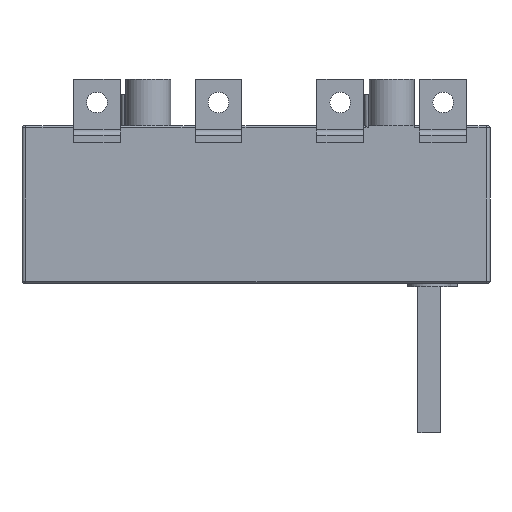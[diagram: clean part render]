
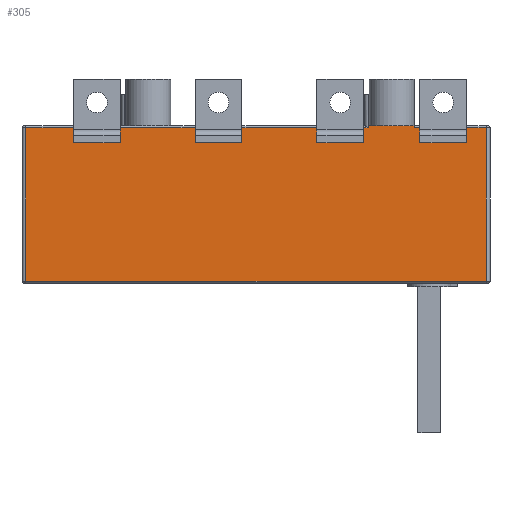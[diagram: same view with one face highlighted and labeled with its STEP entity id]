
A CAD part, front view. The second image highlights one B-rep face of the part: STEP entity #305.
In plain terms, the highlighted planar face has unit normal (0, -1, 0).
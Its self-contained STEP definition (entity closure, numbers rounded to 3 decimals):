
#305=ADVANCED_FACE('',(#681),#545,.T.);
#545=PLANE('',#4366);
#681=FACE_OUTER_BOUND('',#849,.T.);
#849=EDGE_LOOP('',(#1993,#1994,#1995,#1996,#1997,#1998,#1999,#2000,#2001,
#2002,#2003,#2004,#2005,#2006,#2007,#2008,#2009,#2010,#2011,#2012,#2013,
#2014,#2015,#2016,#2017,#2018,#2019,#2020,#2021,#2022,#2023,#2024,#2025,
#2026));
#1154=LINE('',#6079,#1534);
#1157=LINE('',#6088,#1537);
#1209=LINE('',#6226,#1589);
#1210=LINE('',#6229,#1590);
#1211=LINE('',#6231,#1591);
#1212=LINE('',#6233,#1592);
#1213=LINE('',#6235,#1593);
#1214=LINE('',#6237,#1594);
#1215=LINE('',#6239,#1595);
#1216=LINE('',#6241,#1596);
#1217=LINE('',#6243,#1597);
#1218=LINE('',#6245,#1598);
#1219=LINE('',#6246,#1599);
#1220=LINE('',#6248,#1600);
#1221=LINE('',#6250,#1601);
#1222=LINE('',#6251,#1602);
#1223=LINE('',#6253,#1603);
#1224=LINE('',#6255,#1604);
#1225=LINE('',#6257,#1605);
#1226=LINE('',#6259,#1606);
#1227=LINE('',#6261,#1607);
#1228=LINE('',#6263,#1608);
#1229=LINE('',#6265,#1609);
#1230=LINE('',#6267,#1610);
#1231=LINE('',#6269,#1611);
#1232=LINE('',#6271,#1612);
#1233=LINE('',#6273,#1613);
#1234=LINE('',#6275,#1614);
#1235=LINE('',#6277,#1615);
#1236=LINE('',#6279,#1616);
#1237=LINE('',#6281,#1617);
#1238=LINE('',#6283,#1618);
#1239=LINE('',#6285,#1619);
#1240=LINE('',#6287,#1620);
#1534=VECTOR('',#4797,1.);
#1537=VECTOR('',#4804,1.);
#1589=VECTOR('',#4912,1.);
#1590=VECTOR('',#4913,1.);
#1591=VECTOR('',#4914,1.);
#1592=VECTOR('',#4915,1.);
#1593=VECTOR('',#4916,1.);
#1594=VECTOR('',#4917,1.);
#1595=VECTOR('',#4918,1.);
#1596=VECTOR('',#4919,1.);
#1597=VECTOR('',#4920,1.);
#1598=VECTOR('',#4921,1.);
#1599=VECTOR('',#4922,1.);
#1600=VECTOR('',#4923,1.);
#1601=VECTOR('',#4924,1.);
#1602=VECTOR('',#4925,1.);
#1603=VECTOR('',#4926,1.);
#1604=VECTOR('',#4927,1.);
#1605=VECTOR('',#4928,1.);
#1606=VECTOR('',#4929,1.);
#1607=VECTOR('',#4930,1.);
#1608=VECTOR('',#4931,1.);
#1609=VECTOR('',#4932,1.);
#1610=VECTOR('',#4933,1.);
#1611=VECTOR('',#4934,1.);
#1612=VECTOR('',#4935,1.);
#1613=VECTOR('',#4936,1.);
#1614=VECTOR('',#4937,1.);
#1615=VECTOR('',#4938,1.);
#1616=VECTOR('',#4939,1.);
#1617=VECTOR('',#4940,1.);
#1618=VECTOR('',#4941,1.);
#1619=VECTOR('',#4942,1.);
#1620=VECTOR('',#4943,1.);
#1993=ORIENTED_EDGE('',*,*,#3581,.F.);
#1994=ORIENTED_EDGE('',*,*,#3582,.F.);
#1995=ORIENTED_EDGE('',*,*,#3583,.T.);
#1996=ORIENTED_EDGE('',*,*,#3584,.T.);
#1997=ORIENTED_EDGE('',*,*,#3585,.T.);
#1998=ORIENTED_EDGE('',*,*,#3586,.F.);
#1999=ORIENTED_EDGE('',*,*,#3587,.F.);
#2000=ORIENTED_EDGE('',*,*,#3588,.T.);
#2001=ORIENTED_EDGE('',*,*,#3589,.T.);
#2002=ORIENTED_EDGE('',*,*,#3590,.T.);
#2003=ORIENTED_EDGE('',*,*,#3516,.F.);
#2004=ORIENTED_EDGE('',*,*,#3591,.T.);
#2005=ORIENTED_EDGE('',*,*,#3592,.T.);
#2006=ORIENTED_EDGE('',*,*,#3593,.T.);
#2007=ORIENTED_EDGE('',*,*,#3512,.T.);
#2008=ORIENTED_EDGE('',*,*,#3594,.T.);
#2009=ORIENTED_EDGE('',*,*,#3595,.F.);
#2010=ORIENTED_EDGE('',*,*,#3596,.F.);
#2011=ORIENTED_EDGE('',*,*,#3597,.F.);
#2012=ORIENTED_EDGE('',*,*,#3598,.F.);
#2013=ORIENTED_EDGE('',*,*,#3599,.T.);
#2014=ORIENTED_EDGE('',*,*,#3600,.T.);
#2015=ORIENTED_EDGE('',*,*,#3601,.F.);
#2016=ORIENTED_EDGE('',*,*,#3602,.F.);
#2017=ORIENTED_EDGE('',*,*,#3603,.F.);
#2018=ORIENTED_EDGE('',*,*,#3604,.F.);
#2019=ORIENTED_EDGE('',*,*,#3605,.T.);
#2020=ORIENTED_EDGE('',*,*,#3606,.T.);
#2021=ORIENTED_EDGE('',*,*,#3607,.F.);
#2022=ORIENTED_EDGE('',*,*,#3608,.T.);
#2023=ORIENTED_EDGE('',*,*,#3609,.T.);
#2024=ORIENTED_EDGE('',*,*,#3610,.T.);
#2025=ORIENTED_EDGE('',*,*,#3611,.F.);
#2026=ORIENTED_EDGE('',*,*,#3612,.F.);
#3106=VERTEX_POINT('',#6070);
#3110=VERTEX_POINT('',#6078);
#3114=VERTEX_POINT('',#6087);
#3115=VERTEX_POINT('',#6089);
#3173=VERTEX_POINT('',#6227);
#3174=VERTEX_POINT('',#6228);
#3175=VERTEX_POINT('',#6230);
#3176=VERTEX_POINT('',#6232);
#3177=VERTEX_POINT('',#6234);
#3178=VERTEX_POINT('',#6236);
#3179=VERTEX_POINT('',#6238);
#3180=VERTEX_POINT('',#6240);
#3181=VERTEX_POINT('',#6242);
#3182=VERTEX_POINT('',#6244);
#3183=VERTEX_POINT('',#6247);
#3184=VERTEX_POINT('',#6249);
#3185=VERTEX_POINT('',#6252);
#3186=VERTEX_POINT('',#6254);
#3187=VERTEX_POINT('',#6256);
#3188=VERTEX_POINT('',#6258);
#3189=VERTEX_POINT('',#6260);
#3190=VERTEX_POINT('',#6262);
#3191=VERTEX_POINT('',#6264);
#3192=VERTEX_POINT('',#6266);
#3193=VERTEX_POINT('',#6268);
#3194=VERTEX_POINT('',#6270);
#3195=VERTEX_POINT('',#6272);
#3196=VERTEX_POINT('',#6274);
#3197=VERTEX_POINT('',#6276);
#3198=VERTEX_POINT('',#6278);
#3199=VERTEX_POINT('',#6280);
#3200=VERTEX_POINT('',#6282);
#3201=VERTEX_POINT('',#6284);
#3202=VERTEX_POINT('',#6286);
#3512=EDGE_CURVE('',#3106,#3110,#1154,.T.);
#3516=EDGE_CURVE('',#3114,#3115,#1157,.T.);
#3581=EDGE_CURVE('',#3173,#3174,#1209,.T.);
#3582=EDGE_CURVE('',#3175,#3173,#1210,.T.);
#3583=EDGE_CURVE('',#3175,#3176,#1211,.T.);
#3584=EDGE_CURVE('',#3176,#3177,#1212,.T.);
#3585=EDGE_CURVE('',#3177,#3178,#1213,.T.);
#3586=EDGE_CURVE('',#3179,#3178,#1214,.T.);
#3587=EDGE_CURVE('',#3180,#3179,#1215,.T.);
#3588=EDGE_CURVE('',#3180,#3181,#1216,.T.);
#3589=EDGE_CURVE('',#3181,#3182,#1217,.T.);
#3590=EDGE_CURVE('',#3182,#3115,#1218,.T.);
#3591=EDGE_CURVE('',#3114,#3183,#1219,.T.);
#3592=EDGE_CURVE('',#3183,#3184,#1220,.T.);
#3593=EDGE_CURVE('',#3184,#3106,#1221,.T.);
#3594=EDGE_CURVE('',#3110,#3185,#1222,.T.);
#3595=EDGE_CURVE('',#3186,#3185,#1223,.T.);
#3596=EDGE_CURVE('',#3187,#3186,#1224,.T.);
#3597=EDGE_CURVE('',#3188,#3187,#1225,.T.);
#3598=EDGE_CURVE('',#3189,#3188,#1226,.T.);
#3599=EDGE_CURVE('',#3189,#3190,#1227,.T.);
#3600=EDGE_CURVE('',#3190,#3191,#1228,.T.);
#3601=EDGE_CURVE('',#3192,#3191,#1229,.T.);
#3602=EDGE_CURVE('',#3193,#3192,#1230,.T.);
#3603=EDGE_CURVE('',#3194,#3193,#1231,.T.);
#3604=EDGE_CURVE('',#3195,#3194,#1232,.T.);
#3605=EDGE_CURVE('',#3195,#3196,#1233,.T.);
#3606=EDGE_CURVE('',#3196,#3197,#1234,.T.);
#3607=EDGE_CURVE('',#3198,#3197,#1235,.T.);
#3608=EDGE_CURVE('',#3198,#3199,#1236,.T.);
#3609=EDGE_CURVE('',#3199,#3200,#1237,.T.);
#3610=EDGE_CURVE('',#3200,#3201,#1238,.T.);
#3611=EDGE_CURVE('',#3202,#3201,#1239,.T.);
#3612=EDGE_CURVE('',#3174,#3202,#1240,.T.);
#4366=AXIS2_PLACEMENT_3D('',#6288,#4944,#4945);
#4797=DIRECTION('',(0.,0.,1.));
#4804=DIRECTION('',(0.,0.,1.));
#4912=DIRECTION('',(1.,0.,0.));
#4913=DIRECTION('',(0.,0.,-1.));
#4914=DIRECTION('',(0.,0.,1.));
#4915=DIRECTION('',(-1.,0.,0.));
#4916=DIRECTION('',(0.,0.,1.));
#4917=DIRECTION('',(1.,0.,0.));
#4918=DIRECTION('',(0.,0.,-1.));
#4919=DIRECTION('',(-1.,0.,0.));
#4920=DIRECTION('',(0.,0.,-1.));
#4921=DIRECTION('',(-1.,0.,0.));
#4922=DIRECTION('',(0.,0.,-1.));
#4923=DIRECTION('',(-1.,0.,0.));
#4924=DIRECTION('',(0.,0.,1.));
#4925=DIRECTION('',(-1.,0.,0.));
#4926=DIRECTION('',(0.,0.,1.));
#4927=DIRECTION('',(0.,0.,1.));
#4928=DIRECTION('',(1.,0.,0.));
#4929=DIRECTION('',(0.,0.,-1.));
#4930=DIRECTION('',(0.,0.,1.));
#4931=DIRECTION('',(-1.,0.,0.));
#4932=DIRECTION('',(0.,0.,1.));
#4933=DIRECTION('',(0.,0.,1.));
#4934=DIRECTION('',(1.,0.,0.));
#4935=DIRECTION('',(0.,0.,-1.));
#4936=DIRECTION('',(0.,0.,1.));
#4937=DIRECTION('',(-1.,0.,0.));
#4938=DIRECTION('',(0.,0.,1.));
#4939=DIRECTION('',(1.,0.,0.));
#4940=DIRECTION('',(0.,0.,1.));
#4941=DIRECTION('',(-1.,0.,0.));
#4942=DIRECTION('',(0.,0.,1.));
#4943=DIRECTION('',(0.,0.,1.));
#4944=DIRECTION('',(0.,-1.,0.));
#4945=DIRECTION('',(1.,0.,0.));
#6070=CARTESIAN_POINT('',(-40.,-52.5,-5.));
#6078=CARTESIAN_POINT('',(-40.,-52.5,-1.));
#6079=CARTESIAN_POINT('',(-40.,-52.5,-9.));
#6087=CARTESIAN_POINT('',(-15.,-52.5,-5.));
#6088=CARTESIAN_POINT('',(-15.,-52.5,-9.));
#6089=CARTESIAN_POINT('',(-15.,-52.5,-1.));
#6226=CARTESIAN_POINT('',(15.,-52.5,-9.));
#6227=CARTESIAN_POINT('',(15.,-52.5,-9.));
#6228=CARTESIAN_POINT('',(40.,-52.5,-9.));
#6229=CARTESIAN_POINT('',(15.,-52.5,-9.));
#6230=CARTESIAN_POINT('',(15.,-52.5,-5.));
#6231=CARTESIAN_POINT('',(15.,-52.5,-9.));
#6232=CARTESIAN_POINT('',(15.,-52.5,-1.));
#6233=CARTESIAN_POINT('',(12.,-52.5,-1.));
#6234=CARTESIAN_POINT('',(12.,-52.5,-1.));
#6235=CARTESIAN_POINT('',(12.,-52.5,4.));
#6236=CARTESIAN_POINT('',(12.,-52.5,0.));
#6237=CARTESIAN_POINT('',(50.5,-52.5,0.));
#6238=CARTESIAN_POINT('',(-12.,-52.5,0.));
#6239=CARTESIAN_POINT('',(-12.,-52.5,25.));
#6240=CARTESIAN_POINT('',(-12.,-52.5,17.));
#6241=CARTESIAN_POINT('',(7.5,-52.5,17.));
#6242=CARTESIAN_POINT('',(-12.5,-52.5,17.));
#6243=CARTESIAN_POINT('',(-12.5,-52.5,4.));
#6244=CARTESIAN_POINT('',(-12.5,-52.5,-1.));
#6245=CARTESIAN_POINT('',(-195.5,-52.5,-1.));
#6246=CARTESIAN_POINT('',(-15.,-52.5,-9.));
#6247=CARTESIAN_POINT('',(-15.,-52.5,-9.));
#6248=CARTESIAN_POINT('',(-40.,-52.5,-9.));
#6249=CARTESIAN_POINT('',(-40.,-52.5,-9.));
#6250=CARTESIAN_POINT('',(-40.,-52.5,-9.));
#6251=CARTESIAN_POINT('',(-195.5,-52.5,-1.));
#6252=CARTESIAN_POINT('',(-80.,-52.5,-1.));
#6253=CARTESIAN_POINT('',(-80.,-52.5,-9.));
#6254=CARTESIAN_POINT('',(-80.,-52.5,-5.));
#6255=CARTESIAN_POINT('',(-80.,-52.5,-9.));
#6256=CARTESIAN_POINT('',(-80.,-52.5,-9.));
#6257=CARTESIAN_POINT('',(-105.,-52.5,-9.));
#6258=CARTESIAN_POINT('',(-105.,-52.5,-9.));
#6259=CARTESIAN_POINT('',(-105.,-52.5,-9.));
#6260=CARTESIAN_POINT('',(-105.,-52.5,-5.));
#6261=CARTESIAN_POINT('',(-105.,-52.5,-9.));
#6262=CARTESIAN_POINT('',(-105.,-52.5,-1.));
#6263=CARTESIAN_POINT('',(-195.5,-52.5,-1.));
#6264=CARTESIAN_POINT('',(-145.,-52.5,-1.));
#6265=CARTESIAN_POINT('',(-145.,-52.5,-9.));
#6266=CARTESIAN_POINT('',(-145.,-52.5,-5.));
#6267=CARTESIAN_POINT('',(-145.,-52.5,-9.));
#6268=CARTESIAN_POINT('',(-145.,-52.5,-9.));
#6269=CARTESIAN_POINT('',(-170.,-52.5,-9.));
#6270=CARTESIAN_POINT('',(-170.,-52.5,-9.));
#6271=CARTESIAN_POINT('',(-170.,-52.5,-9.));
#6272=CARTESIAN_POINT('',(-170.,-52.5,-5.));
#6273=CARTESIAN_POINT('',(-170.,-52.5,-9.));
#6274=CARTESIAN_POINT('',(-170.,-52.5,-1.));
#6275=CARTESIAN_POINT('',(-195.5,-52.5,-1.));
#6276=CARTESIAN_POINT('',(-195.5,-52.5,-1.));
#6277=CARTESIAN_POINT('',(-195.5,-52.5,-84.));
#6278=CARTESIAN_POINT('',(-195.5,-52.5,-83.));
#6279=CARTESIAN_POINT('',(-12.,-52.5,-83.));
#6280=CARTESIAN_POINT('',(50.5,-52.5,-83.));
#6281=CARTESIAN_POINT('',(50.5,-52.5,-84.));
#6282=CARTESIAN_POINT('',(50.5,-52.5,-1.));
#6283=CARTESIAN_POINT('',(12.,-52.5,-1.));
#6284=CARTESIAN_POINT('',(40.,-52.5,-1.));
#6285=CARTESIAN_POINT('',(40.,-52.5,-9.));
#6286=CARTESIAN_POINT('',(40.,-52.5,-5.));
#6287=CARTESIAN_POINT('',(40.,-52.5,-9.));
#6288=CARTESIAN_POINT('',(-12.,-52.5,4.));
